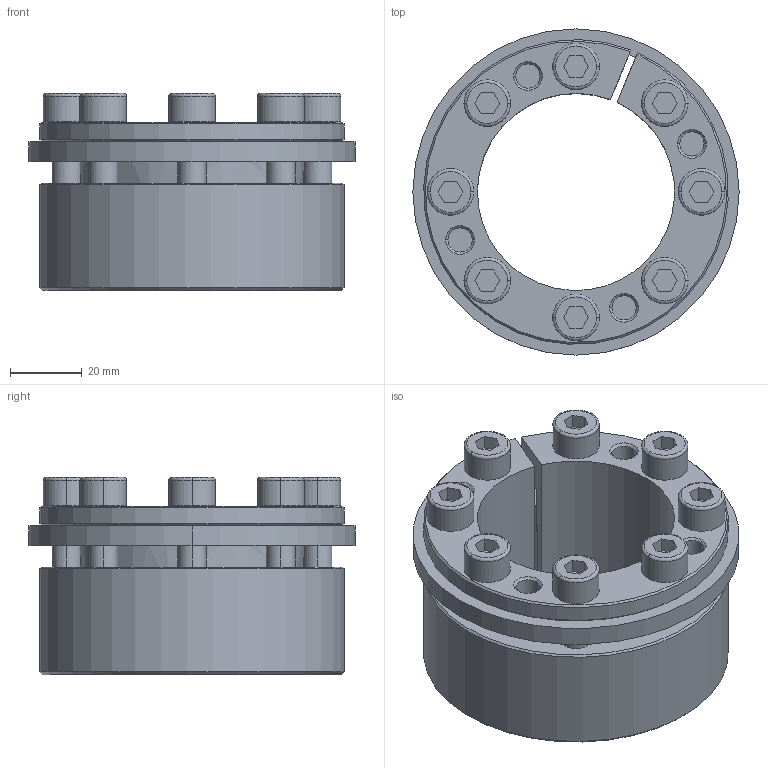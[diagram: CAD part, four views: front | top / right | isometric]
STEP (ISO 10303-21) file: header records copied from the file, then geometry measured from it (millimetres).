
FILE_DESCRIPTION((''),'2;1');
FILE_NAME('398-015-0055','2024-02-16T',('Brieden'),('Brieden'),'PRO/ENGINEER BY PARAMETRIC TECHNOLOGY CORPORATION, 2010160','PRO/ENGINEER BY PARAMETRIC TECHNOLOGY CORPORATION, 2010160','');
FILE_SCHEMA(('AUTOMOTIVE_DESIGN { 1 0 10303 214 1 1 1 1 }'));
Length unit declared in the file: millimetre
Products named in the file (1): 398-015-0055
Bounding box: 91 x 91 x 55 mm (x, y, z)
Volume: 148519.5 mm3; surface area: 59419.3 mm2
Topology: 2 solids, 2 shells, 235 faces, 621 edges, 394 vertices
Faces by surface type: plane 100, cylinder 80, cone 39, torus 16
Entity records: 10487 total; most frequent: CARTESIAN_POINT 2243, DIRECTION 1356, ORIENTED_EDGE 1242, PRESENTATION_STYLE_ASSIGNMENT 643, STYLED_ITEM 623, CURVE_STYLE 621, EDGE_CURVE 621, AXIS2_PLACEMENT_3D 541
